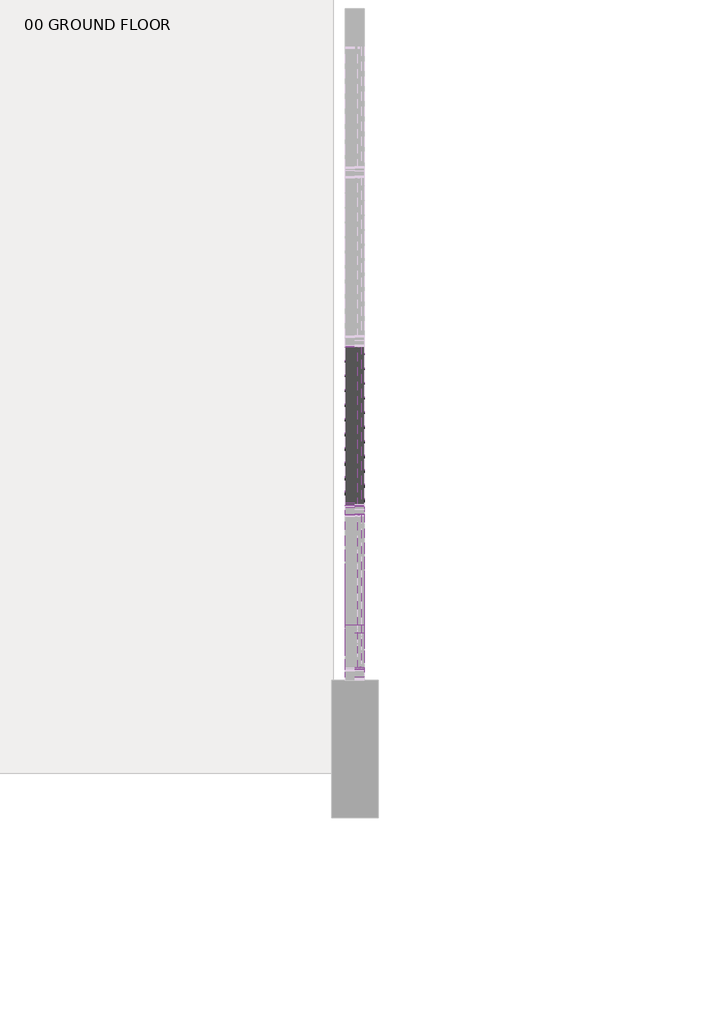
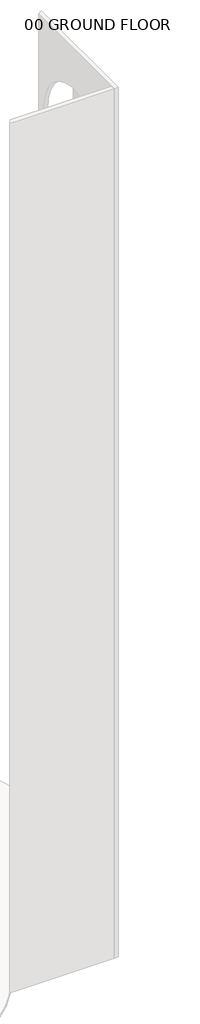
# One storey, part 16 of 33: 73 members, 52 plates.
"""IFC4 building model written with IfcOpenShell, lengths in millimetres."""

from ifc_helpers import new_model, si_unit, origin, place, context, project, spatial, transform, mapped, element, save
from components import member_c70f70ef, member_d1490fb0, member_2b49869a, member_5b1e3403, member_ba1b3d85, member_7098706b, member_828826df, member_e05e2410, member_cba936bb, system_panel_glazed_f009bf0e, system_panel_glazed_0919b3b7, system_panel_glazed_00e24ec9

model = new_model("IFC4")

# Units and contexts
model_context = context("Model", 3, world=origin())
ifc_project = project(units=[si_unit("LENGTHUNIT", "METRE", prefix="MILLI")], contexts=[model_context])

# Site, building, storey
site = spatial("IfcSite", under=ifc_project)
building = spatial("IfcBuilding", under=site)
storey = spatial("IfcBuildingStorey", under=building, Name="00 GROUND FLOOR", Elevation=0.0)

# Members
placement = place(None, origin())
member_shape = member_c70f70ef(model_context)
element("IfcMember", 1, ObjectType="Rectangular Mullion : 2.5\" x 5\" rectangular", at=placement, inside=storey, context=model_context, shape_type="MappedRepresentation", body=[
    mapped(member_shape, transform((44184.4050515, 1865.5392859, 46329.6), x_axis=(0.0, 0.0, 1.0), y_axis=(1.0, 0.0, 0.0), z_axis=(0.0, 1.0, 0.0))),
])
element("IfcMember", 2, ObjectType="Rectangular Mullion : 2.5\" x 5\" rectangular", at=placement, inside=storey, context=model_context, shape_type="MappedRepresentation", body=[
    mapped(member_shape, transform((44184.4050515, 1865.5392859, 47548.8), x_axis=(0.0, 0.0, 1.0), y_axis=(1.0, 0.0, 0.0), z_axis=(0.0, 1.0, 0.0))),
])
element("IfcMember", 3, ObjectType="Rectangular Mullion : 2.5\" x 5\" rectangular", at=placement, inside=storey, context=model_context, shape_type="MappedRepresentation", body=[
    mapped(member_shape, transform((44184.4050515, 1865.5392859, 48768.0), x_axis=(0.0, 0.0, 1.0), y_axis=(1.0, 0.0, 0.0), z_axis=(0.0, 1.0, 0.0))),
])
element("IfcMember", 4, ObjectType="Rectangular Mullion : 2.5\" x 5\" rectangular", at=placement, inside=storey, context=model_context, shape_type="MappedRepresentation", body=[
    mapped(member_shape, transform((44184.4050515, 1865.5392859, 49987.2), x_axis=(0.0, 0.0, 1.0), y_axis=(1.0, 0.0, 0.0), z_axis=(0.0, 1.0, 0.0))),
])
element("IfcMember", 5, ObjectType="Rectangular Mullion : 2.5\" x 5\" rectangular", at=placement, inside=storey, context=model_context, shape_type="MappedRepresentation", body=[
    mapped(member_shape, transform((44184.4050515, 1865.5392859, 51206.4), x_axis=(0.0, 0.0, 1.0), y_axis=(1.0, 0.0, 0.0), z_axis=(0.0, 1.0, 0.0))),
])
element("IfcMember", 6, ObjectType="Rectangular Mullion : 2.5\" x 5\" rectangular", at=placement, inside=storey, context=model_context, shape_type="MappedRepresentation", body=[
    mapped(member_shape, transform((44184.4050515, 1865.5392859, 52425.6), x_axis=(0.0, 0.0, 1.0), y_axis=(1.0, 0.0, 0.0), z_axis=(0.0, 1.0, 0.0))),
])
element("IfcMember", 7, ObjectType="Rectangular Mullion : 2.5\" x 5\" rectangular", at=placement, inside=storey, context=model_context, shape_type="MappedRepresentation", body=[
    mapped(member_shape, transform((44184.4050515, 1865.5392859, 53644.8), x_axis=(0.0, 0.0, 1.0), y_axis=(1.0, 0.0, 0.0), z_axis=(0.0, 1.0, 0.0))),
])
element("IfcMember", 8, ObjectType="Rectangular Mullion : 2.5\" x 5\" rectangular", at=placement, inside=storey, context=model_context, shape_type="MappedRepresentation", body=[
    mapped(member_shape, transform((44184.4050515, 1865.5392859, 54864.0), x_axis=(0.0, 0.0, 1.0), y_axis=(1.0, 0.0, 0.0), z_axis=(0.0, 1.0, 0.0))),
])
element("IfcMember", 9, ObjectType="Rectangular Mullion : 2.5\" x 5\" rectangular", at=placement, inside=storey, context=model_context, shape_type="MappedRepresentation", body=[
    mapped(member_shape, transform((44184.4050515, 1865.5392859, 56083.2), x_axis=(0.0, 0.0, 1.0), y_axis=(1.0, 0.0, 0.0), z_axis=(0.0, 1.0, 0.0))),
])
element("IfcMember", 10, ObjectType="Rectangular Mullion : 2.5\" x 5\" rectangular", at=placement, inside=storey, context=model_context, shape_type="MappedRepresentation", body=[
    mapped(member_shape, transform((44184.4050515, 1865.5392859, 57302.4), x_axis=(0.0, 0.0, 1.0), y_axis=(1.0, 0.0, 0.0), z_axis=(0.0, 1.0, 0.0))),
])
element("IfcMember", 11, ObjectType="Rectangular Mullion : 2.5\" x 5\" rectangular", at=placement, inside=storey, context=model_context, shape_type="MappedRepresentation", body=[
    mapped(member_shape, transform((44184.4050515, 1865.5392859, 58521.6), x_axis=(0.0, 0.0, 1.0), y_axis=(1.0, 0.0, 0.0), z_axis=(0.0, 1.0, 0.0))),
])
member_2_shape = member_d1490fb0(model_context)
element("IfcMember", 12, ObjectType="Rectangular Mullion : 2.5\" x 5\" rectangular", at=placement, inside=storey, context=model_context, shape_type="MappedRepresentation", body=[
    mapped(member_2_shape, transform((44184.4050515, 2997.6535716, 1219.2), x_axis=(0.0, 0.0, 1.0), y_axis=(1.0, 0.0, 0.0), z_axis=(0.0, 1.0, 0.0))),
])
element("IfcMember", 13, ObjectType="Rectangular Mullion : 2.5\" x 5\" rectangular", at=placement, inside=storey, context=model_context, shape_type="MappedRepresentation", body=[
    mapped(member_2_shape, transform((44184.4050515, 2997.6535716, 2438.4), x_axis=(0.0, 0.0, 1.0), y_axis=(1.0, 0.0, 0.0), z_axis=(0.0, 1.0, 0.0))),
])
element("IfcMember", 14, ObjectType="Rectangular Mullion : 2.5\" x 5\" rectangular", at=placement, inside=storey, context=model_context, shape_type="MappedRepresentation", body=[
    mapped(member_2_shape, transform((44184.4050515, 2997.6535716, 3657.6), x_axis=(0.0, 0.0, 1.0), y_axis=(1.0, 0.0, 0.0), z_axis=(0.0, 1.0, 0.0))),
])
element("IfcMember", 15, ObjectType="Rectangular Mullion : 2.5\" x 5\" rectangular", at=placement, inside=storey, context=model_context, shape_type="MappedRepresentation", body=[
    mapped(member_2_shape, transform((44184.4050515, 2997.6535716, 4876.8), x_axis=(0.0, 0.0, 1.0), y_axis=(1.0, 0.0, 0.0), z_axis=(0.0, 1.0, 0.0))),
])
element("IfcMember", 16, ObjectType="Rectangular Mullion : 2.5\" x 5\" rectangular", at=placement, inside=storey, context=model_context, shape_type="MappedRepresentation", body=[
    mapped(member_2_shape, transform((44184.4050515, 2997.6535716, 6096.0), x_axis=(0.0, 0.0, 1.0), y_axis=(1.0, 0.0, 0.0), z_axis=(0.0, 1.0, 0.0))),
])
element("IfcMember", 17, ObjectType="Rectangular Mullion : 2.5\" x 5\" rectangular", at=placement, inside=storey, context=model_context, shape_type="MappedRepresentation", body=[
    mapped(member_2_shape, transform((44184.4050515, 2997.6535716, 7315.2), x_axis=(0.0, 0.0, 1.0), y_axis=(1.0, 0.0, 0.0), z_axis=(0.0, 1.0, 0.0))),
])
element("IfcMember", 18, ObjectType="Rectangular Mullion : 2.5\" x 5\" rectangular", at=placement, inside=storey, context=model_context, shape_type="MappedRepresentation", body=[
    mapped(member_2_shape, transform((44184.4050515, 2997.6535716, 8534.4), x_axis=(0.0, 0.0, 1.0), y_axis=(1.0, 0.0, 0.0), z_axis=(0.0, 1.0, 0.0))),
])
element("IfcMember", 19, ObjectType="Rectangular Mullion : 2.5\" x 5\" rectangular", at=placement, inside=storey, context=model_context, shape_type="MappedRepresentation", body=[
    mapped(member_2_shape, transform((44184.4050515, 2997.6535716, 9753.6), x_axis=(0.0, 0.0, 1.0), y_axis=(1.0, 0.0, 0.0), z_axis=(0.0, 1.0, 0.0))),
])
element("IfcMember", 20, ObjectType="Rectangular Mullion : 2.5\" x 5\" rectangular", at=placement, inside=storey, context=model_context, shape_type="MappedRepresentation", body=[
    mapped(member_2_shape, transform((44184.4050515, 2997.6535716, 10972.8), x_axis=(0.0, 0.0, 1.0), y_axis=(1.0, 0.0, 0.0), z_axis=(0.0, 1.0, 0.0))),
])
element("IfcMember", 21, ObjectType="Rectangular Mullion : 2.5\" x 5\" rectangular", at=placement, inside=storey, context=model_context, shape_type="MappedRepresentation", body=[
    mapped(member_2_shape, transform((44184.4050515, 2997.6535716, 12192.0), x_axis=(0.0, 0.0, 1.0), y_axis=(1.0, 0.0, 0.0), z_axis=(0.0, 1.0, 0.0))),
])
element("IfcMember", 22, ObjectType="Rectangular Mullion : 2.5\" x 5\" rectangular", at=placement, inside=storey, context=model_context, shape_type="MappedRepresentation", body=[
    mapped(member_2_shape, transform((44184.4050515, 2997.6535716, 13411.2), x_axis=(0.0, 0.0, 1.0), y_axis=(1.0, 0.0, 0.0), z_axis=(0.0, 1.0, 0.0))),
])
element("IfcMember", 23, ObjectType="Rectangular Mullion : 2.5\" x 5\" rectangular", at=placement, inside=storey, context=model_context, shape_type="MappedRepresentation", body=[
    mapped(member_2_shape, transform((44184.4050515, 2997.6535716, 14630.4), x_axis=(0.0, 0.0, 1.0), y_axis=(1.0, 0.0, 0.0), z_axis=(0.0, 1.0, 0.0))),
])
element("IfcMember", 24, ObjectType="Rectangular Mullion : 2.5\" x 5\" rectangular", at=placement, inside=storey, context=model_context, shape_type="MappedRepresentation", body=[
    mapped(member_2_shape, transform((44184.4050515, 2997.6535716, 15849.6), x_axis=(0.0, 0.0, 1.0), y_axis=(1.0, 0.0, 0.0), z_axis=(0.0, 1.0, 0.0))),
])
element("IfcMember", 25, ObjectType="Rectangular Mullion : 2.5\" x 5\" rectangular", at=placement, inside=storey, context=model_context, shape_type="MappedRepresentation", body=[
    mapped(member_2_shape, transform((44184.4050515, 2997.6535716, 17068.8), x_axis=(0.0, 0.0, 1.0), y_axis=(1.0, 0.0, 0.0), z_axis=(0.0, 1.0, 0.0))),
])
element("IfcMember", 26, ObjectType="Rectangular Mullion : 2.5\" x 5\" rectangular", at=placement, inside=storey, context=model_context, shape_type="MappedRepresentation", body=[
    mapped(member_2_shape, transform((44184.4050515, 2997.6535716, 18288.0), x_axis=(0.0, 0.0, 1.0), y_axis=(1.0, 0.0, 0.0), z_axis=(0.0, 1.0, 0.0))),
])
element("IfcMember", 27, ObjectType="Rectangular Mullion : 2.5\" x 5\" rectangular", at=placement, inside=storey, context=model_context, shape_type="MappedRepresentation", body=[
    mapped(member_2_shape, transform((44184.4050515, 2997.6535716, 19507.2), x_axis=(0.0, 0.0, 1.0), y_axis=(1.0, 0.0, 0.0), z_axis=(0.0, 1.0, 0.0))),
])
element("IfcMember", 28, ObjectType="Rectangular Mullion : 2.5\" x 5\" rectangular", at=placement, inside=storey, context=model_context, shape_type="MappedRepresentation", body=[
    mapped(member_2_shape, transform((44184.4050515, 2997.6535716, 20726.4), x_axis=(0.0, 0.0, 1.0), y_axis=(1.0, 0.0, 0.0), z_axis=(0.0, 1.0, 0.0))),
])
element("IfcMember", 29, ObjectType="Rectangular Mullion : 2.5\" x 5\" rectangular", at=placement, inside=storey, context=model_context, shape_type="MappedRepresentation", body=[
    mapped(member_2_shape, transform((44184.4050515, 2997.6535716, 21945.6), x_axis=(0.0, 0.0, 1.0), y_axis=(1.0, 0.0, 0.0), z_axis=(0.0, 1.0, 0.0))),
])
element("IfcMember", 30, ObjectType="Rectangular Mullion : 2.5\" x 5\" rectangular", at=placement, inside=storey, context=model_context, shape_type="MappedRepresentation", body=[
    mapped(member_2_shape, transform((44184.4050515, 2997.6535716, 23164.8), x_axis=(0.0, 0.0, 1.0), y_axis=(1.0, 0.0, 0.0), z_axis=(0.0, 1.0, 0.0))),
])
element("IfcMember", 31, ObjectType="Rectangular Mullion : 2.5\" x 5\" rectangular", at=placement, inside=storey, context=model_context, shape_type="MappedRepresentation", body=[
    mapped(member_2_shape, transform((44184.4050515, 2997.6535716, 24384.0), x_axis=(0.0, 0.0, 1.0), y_axis=(1.0, 0.0, 0.0), z_axis=(0.0, 1.0, 0.0))),
])
element("IfcMember", 32, ObjectType="Rectangular Mullion : 2.5\" x 5\" rectangular", at=placement, inside=storey, context=model_context, shape_type="MappedRepresentation", body=[
    mapped(member_2_shape, transform((44184.4050515, 2997.6535716, 25603.2), x_axis=(0.0, 0.0, 1.0), y_axis=(1.0, 0.0, 0.0), z_axis=(0.0, 1.0, 0.0))),
])
element("IfcMember", 33, ObjectType="Rectangular Mullion : 2.5\" x 5\" rectangular", at=placement, inside=storey, context=model_context, shape_type="MappedRepresentation", body=[
    mapped(member_2_shape, transform((44184.4050515, 2997.6535716, 26822.4), x_axis=(0.0, 0.0, 1.0), y_axis=(1.0, 0.0, 0.0), z_axis=(0.0, 1.0, 0.0))),
])
element("IfcMember", 34, ObjectType="Rectangular Mullion : 2.5\" x 5\" rectangular", at=placement, inside=storey, context=model_context, shape_type="MappedRepresentation", body=[
    mapped(member_2_shape, transform((44184.4050515, 2997.6535716, 28041.6), x_axis=(0.0, 0.0, 1.0), y_axis=(1.0, 0.0, 0.0), z_axis=(0.0, 1.0, 0.0))),
])
element("IfcMember", 35, ObjectType="Rectangular Mullion : 2.5\" x 5\" rectangular", at=placement, inside=storey, context=model_context, shape_type="MappedRepresentation", body=[
    mapped(member_2_shape, transform((44184.4050515, 2997.6535716, 29260.8), x_axis=(0.0, 0.0, 1.0), y_axis=(1.0, 0.0, 0.0), z_axis=(0.0, 1.0, 0.0))),
])
element("IfcMember", 36, ObjectType="Rectangular Mullion : 2.5\" x 5\" rectangular", at=placement, inside=storey, context=model_context, shape_type="MappedRepresentation", body=[
    mapped(member_2_shape, transform((44184.4050515, 2997.6535716, 30480.0), x_axis=(0.0, 0.0, 1.0), y_axis=(1.0, 0.0, 0.0), z_axis=(0.0, 1.0, 0.0))),
])
element("IfcMember", 37, ObjectType="Rectangular Mullion : 2.5\" x 5\" rectangular", at=placement, inside=storey, context=model_context, shape_type="MappedRepresentation", body=[
    mapped(member_2_shape, transform((44184.4050515, 2997.6535716, 31699.2), x_axis=(0.0, 0.0, 1.0), y_axis=(1.0, 0.0, 0.0), z_axis=(0.0, 1.0, 0.0))),
])
element("IfcMember", 38, ObjectType="Rectangular Mullion : 2.5\" x 5\" rectangular", at=placement, inside=storey, context=model_context, shape_type="MappedRepresentation", body=[
    mapped(member_2_shape, transform((44184.4050515, 2997.6535716, 32918.4), x_axis=(0.0, 0.0, 1.0), y_axis=(1.0, 0.0, 0.0), z_axis=(0.0, 1.0, 0.0))),
])
element("IfcMember", 39, ObjectType="Rectangular Mullion : 2.5\" x 5\" rectangular", at=placement, inside=storey, context=model_context, shape_type="MappedRepresentation", body=[
    mapped(member_2_shape, transform((44184.4050515, 2997.6535716, 34137.6), x_axis=(0.0, 0.0, 1.0), y_axis=(1.0, 0.0, 0.0), z_axis=(0.0, 1.0, 0.0))),
])
element("IfcMember", 40, ObjectType="Rectangular Mullion : 2.5\" x 5\" rectangular", at=placement, inside=storey, context=model_context, shape_type="MappedRepresentation", body=[
    mapped(member_2_shape, transform((44184.4050515, 2997.6535716, 35356.8), x_axis=(0.0, 0.0, 1.0), y_axis=(1.0, 0.0, 0.0), z_axis=(0.0, 1.0, 0.0))),
])
element("IfcMember", 41, ObjectType="Rectangular Mullion : 2.5\" x 5\" rectangular", at=placement, inside=storey, context=model_context, shape_type="MappedRepresentation", body=[
    mapped(member_2_shape, transform((44184.4050515, 2997.6535716, 36576.0), x_axis=(0.0, 0.0, 1.0), y_axis=(1.0, 0.0, 0.0), z_axis=(0.0, 1.0, 0.0))),
])
element("IfcMember", 42, ObjectType="Rectangular Mullion : 2.5\" x 5\" rectangular", at=placement, inside=storey, context=model_context, shape_type="MappedRepresentation", body=[
    mapped(member_2_shape, transform((44184.4050515, 2997.6535716, 37795.2), x_axis=(0.0, 0.0, 1.0), y_axis=(1.0, 0.0, 0.0), z_axis=(0.0, 1.0, 0.0))),
])
element("IfcMember", 43, ObjectType="Rectangular Mullion : 2.5\" x 5\" rectangular", at=placement, inside=storey, context=model_context, shape_type="MappedRepresentation", body=[
    mapped(member_2_shape, transform((44184.4050515, 2997.6535716, 39014.4), x_axis=(0.0, 0.0, 1.0), y_axis=(1.0, 0.0, 0.0), z_axis=(0.0, 1.0, 0.0))),
])
element("IfcMember", 44, ObjectType="Rectangular Mullion : 2.5\" x 5\" rectangular", at=placement, inside=storey, context=model_context, shape_type="MappedRepresentation", body=[
    mapped(member_2_shape, transform((44184.4050515, 2997.6535716, 40233.6), x_axis=(0.0, 0.0, 1.0), y_axis=(1.0, 0.0, 0.0), z_axis=(0.0, 1.0, 0.0))),
])
element("IfcMember", 45, ObjectType="Rectangular Mullion : 2.5\" x 5\" rectangular", at=placement, inside=storey, context=model_context, shape_type="MappedRepresentation", body=[
    mapped(member_2_shape, transform((44184.4050515, 2997.6535716, 41452.8), x_axis=(0.0, 0.0, 1.0), y_axis=(1.0, 0.0, 0.0), z_axis=(0.0, 1.0, 0.0))),
])
element("IfcMember", 46, ObjectType="Rectangular Mullion : 2.5\" x 5\" rectangular", at=placement, inside=storey, context=model_context, shape_type="MappedRepresentation", body=[
    mapped(member_2_shape, transform((44184.4050515, 2997.6535716, 42672.0), x_axis=(0.0, 0.0, 1.0), y_axis=(1.0, 0.0, 0.0), z_axis=(0.0, 1.0, 0.0))),
])
element("IfcMember", 47, ObjectType="Rectangular Mullion : 2.5\" x 5\" rectangular", at=placement, inside=storey, context=model_context, shape_type="MappedRepresentation", body=[
    mapped(member_2_shape, transform((44184.4050515, 2997.6535716, 43891.2), x_axis=(0.0, 0.0, 1.0), y_axis=(1.0, 0.0, 0.0), z_axis=(0.0, 1.0, 0.0))),
])
element("IfcMember", 48, ObjectType="Rectangular Mullion : 2.5\" x 5\" rectangular", at=placement, inside=storey, context=model_context, shape_type="MappedRepresentation", body=[
    mapped(member_2_shape, transform((44184.4050515, 2997.6535716, 45110.4), x_axis=(0.0, 0.0, 1.0), y_axis=(1.0, 0.0, 0.0), z_axis=(0.0, 1.0, 0.0))),
])
element("IfcMember", 49, ObjectType="Rectangular Mullion : 2.5\" x 5\" rectangular", at=placement, inside=storey, context=model_context, shape_type="MappedRepresentation", body=[
    mapped(member_2_shape, transform((44184.4050515, 2997.6535716, 46329.6), x_axis=(0.0, 0.0, 1.0), y_axis=(1.0, 0.0, 0.0), z_axis=(0.0, 1.0, 0.0))),
])
element("IfcMember", 50, ObjectType="Rectangular Mullion : 2.5\" x 5\" rectangular", at=placement, inside=storey, context=model_context, shape_type="MappedRepresentation", body=[
    mapped(member_2_shape, transform((44184.4050515, 2997.6535716, 47548.8), x_axis=(0.0, 0.0, 1.0), y_axis=(1.0, 0.0, 0.0), z_axis=(0.0, 1.0, 0.0))),
])
element("IfcMember", 51, ObjectType="Rectangular Mullion : 2.5\" x 5\" rectangular", at=placement, inside=storey, context=model_context, shape_type="MappedRepresentation", body=[
    mapped(member_2_shape, transform((44184.4050515, 2997.6535716, 48768.0), x_axis=(0.0, 0.0, 1.0), y_axis=(1.0, 0.0, 0.0), z_axis=(0.0, 1.0, 0.0))),
])
element("IfcMember", 52, ObjectType="Rectangular Mullion : 2.5\" x 5\" rectangular", at=placement, inside=storey, context=model_context, shape_type="MappedRepresentation", body=[
    mapped(member_2_shape, transform((44184.4050515, 2997.6535716, 49987.2), x_axis=(0.0, 0.0, 1.0), y_axis=(1.0, 0.0, 0.0), z_axis=(0.0, 1.0, 0.0))),
])
element("IfcMember", 53, ObjectType="Rectangular Mullion : 2.5\" x 5\" rectangular", at=placement, inside=storey, context=model_context, shape_type="MappedRepresentation", body=[
    mapped(member_2_shape, transform((44184.4050515, 2997.6535716, 51206.4), x_axis=(0.0, 0.0, 1.0), y_axis=(1.0, 0.0, 0.0), z_axis=(0.0, 1.0, 0.0))),
])
element("IfcMember", 54, ObjectType="Rectangular Mullion : 2.5\" x 5\" rectangular", at=placement, inside=storey, context=model_context, shape_type="MappedRepresentation", body=[
    mapped(member_2_shape, transform((44184.4050515, 2997.6535716, 52425.6), x_axis=(0.0, 0.0, 1.0), y_axis=(1.0, 0.0, 0.0), z_axis=(0.0, 1.0, 0.0))),
])
element("IfcMember", 55, ObjectType="Rectangular Mullion : 2.5\" x 5\" rectangular", at=placement, inside=storey, context=model_context, shape_type="MappedRepresentation", body=[
    mapped(member_2_shape, transform((44184.4050515, 2997.6535716, 53644.8), x_axis=(0.0, 0.0, 1.0), y_axis=(1.0, 0.0, 0.0), z_axis=(0.0, 1.0, 0.0))),
])
element("IfcMember", 56, ObjectType="Rectangular Mullion : 2.5\" x 5\" rectangular", at=placement, inside=storey, context=model_context, shape_type="MappedRepresentation", body=[
    mapped(member_2_shape, transform((44184.4050515, 2997.6535716, 54864.0), x_axis=(0.0, 0.0, 1.0), y_axis=(1.0, 0.0, 0.0), z_axis=(0.0, 1.0, 0.0))),
])
element("IfcMember", 57, ObjectType="Rectangular Mullion : 2.5\" x 5\" rectangular", at=placement, inside=storey, context=model_context, shape_type="MappedRepresentation", body=[
    mapped(member_2_shape, transform((44184.4050515, 2997.6535716, 56083.2), x_axis=(0.0, 0.0, 1.0), y_axis=(1.0, 0.0, 0.0), z_axis=(0.0, 1.0, 0.0))),
])
element("IfcMember", 58, ObjectType="Rectangular Mullion : 2.5\" x 5\" rectangular", at=placement, inside=storey, context=model_context, shape_type="MappedRepresentation", body=[
    mapped(member_2_shape, transform((44184.4050515, 2997.6535716, 57302.4), x_axis=(0.0, 0.0, 1.0), y_axis=(1.0, 0.0, 0.0), z_axis=(0.0, 1.0, 0.0))),
])
element("IfcMember", 59, ObjectType="Rectangular Mullion : 2.5\" x 5\" rectangular", at=placement, inside=storey, context=model_context, shape_type="MappedRepresentation", body=[
    mapped(member_2_shape, transform((44184.4050515, 2997.6535716, 58521.6), x_axis=(0.0, 0.0, 1.0), y_axis=(1.0, 0.0, 0.0), z_axis=(0.0, 1.0, 0.0))),
])
element("IfcMember", 60, ObjectType="Rectangular Mullion : 2.5\" x 5\" rectangular", at=placement, inside=storey, context=model_context, shape_type="MappedRepresentation", body=[
    mapped(member_2_shape, transform((44184.4050515, 2997.6535716, 59740.8), x_axis=(0.0, 0.0, 1.0), y_axis=(1.0, 0.0, 0.0), z_axis=(0.0, 1.0, 0.0))),
])
member_3_shape = member_2b49869a(model_context)
element("IfcMember", 61, ObjectType="Rectangular Mullion : 2.5\" x 5\" rectangular", at=placement, inside=storey, context=model_context, shape_type="MappedRepresentation", body=[
    mapped(member_3_shape, transform((44184.4050515, 1897.2892859, 52425.6), x_axis=(0.0, 1.0, 0.0), y_axis=(1.0, 0.0, 0.0), z_axis=(0.0, 0.0, -1.0))),
])
element("IfcMember", 62, ObjectType="Rectangular Mullion : 2.5\" x 5\" rectangular", at=placement, inside=storey, context=model_context, shape_type="MappedRepresentation", body=[
    mapped(member_3_shape, transform((44184.4050515, 1897.2892859, 53644.8), x_axis=(0.0, 1.0, 0.0), y_axis=(1.0, 0.0, 0.0), z_axis=(0.0, 0.0, -1.0))),
])
element("IfcMember", 63, ObjectType="Rectangular Mullion : 2.5\" x 5\" rectangular", at=placement, inside=storey, context=model_context, shape_type="MappedRepresentation", body=[
    mapped(member_3_shape, transform((44184.4050515, 1897.2892859, 54864.0), x_axis=(0.0, 1.0, 0.0), y_axis=(1.0, 0.0, 0.0), z_axis=(0.0, 0.0, -1.0))),
])
element("IfcMember", 64, ObjectType="Rectangular Mullion : 2.5\" x 5\" rectangular", at=placement, inside=storey, context=model_context, shape_type="MappedRepresentation", body=[
    mapped(member_3_shape, transform((44184.4050515, 1897.2892859, 56083.2), x_axis=(0.0, 1.0, 0.0), y_axis=(1.0, 0.0, 0.0), z_axis=(0.0, 0.0, -1.0))),
])
element("IfcMember", 65, ObjectType="Rectangular Mullion : 2.5\" x 5\" rectangular", at=placement, inside=storey, context=model_context, shape_type="MappedRepresentation", body=[
    mapped(member_3_shape, transform((44184.4050515, 1897.2892859, 57302.4), x_axis=(0.0, 1.0, 0.0), y_axis=(1.0, 0.0, 0.0), z_axis=(0.0, 0.0, -1.0))),
])
element("IfcMember", 66, ObjectType="Rectangular Mullion : 2.5\" x 5\" rectangular", at=placement, inside=storey, context=model_context, shape_type="MappedRepresentation", body=[
    mapped(member_3_shape, transform((44184.4050515, 1897.2892859, 58521.6), x_axis=(0.0, 1.0, 0.0), y_axis=(1.0, 0.0, 0.0), z_axis=(0.0, 0.0, -1.0))),
])
element("IfcMember", 67, ObjectType="Rectangular Mullion : 2.5\" x 5\" rectangular", at=placement, inside=storey, context=model_context, shape_type="MappedRepresentation", body=[
    mapped(member_3_shape, transform((44184.4050515, 1897.2892859, 59740.8), x_axis=(0.0, 1.0, 0.0), y_axis=(1.0, 0.0, 0.0), z_axis=(0.0, 0.0, -1.0))),
])
member_4_shape = member_5b1e3403(model_context)
element("IfcMember", 68, ObjectType="Rectangular Mullion : 2.5\" x 5\" rectangular", at=placement, inside=storey, context=model_context, shape_type="MappedRepresentation", body=[
    mapped(member_4_shape, transform((44184.4050515, 1897.2892859, 62209.1023307), x_axis=(0.0, -0.7142857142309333, 0.6998542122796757), y_axis=(1.0, 0.0, 0.0), z_axis=(0.0, 0.6998542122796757, 0.7142857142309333))),
])
member_5_shape = member_ba1b3d85(model_context)
element("IfcMember", 69, ObjectType="Rectangular Mullion : 2.5\" x 5\" rectangular", at=placement, inside=storey, context=model_context, shape_type="MappedRepresentation", body=[
    mapped(member_5_shape, transform((44184.4050515, 1897.2892859, 60960.0), x_axis=(0.0, 1.0, 0.0), y_axis=(1.0, 0.0, 0.0), z_axis=(0.0, 0.0, -1.0))),
])
member_6_shape = member_7098706b(model_context)
element("IfcMember", 70, ObjectType="Rectangular Mullion : 2.5\" x 5\" rectangular", at=placement, inside=storey, context=model_context, shape_type="MappedRepresentation", body=[
    mapped(member_6_shape, transform((44184.4050515, 1069.975, 60960.0), x_axis=(0.0, -0.9230769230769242, 0.384615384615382), y_axis=(1.0, 0.0, 0.0), z_axis=(0.0, 0.384615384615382, 0.9230769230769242))),
])
member_7_shape = member_828826df(model_context)
element("IfcMember", 71, ObjectType="Rectangular Mullion : 2.5\" x 5\" rectangular", at=placement, inside=storey, context=model_context, shape_type="MappedRepresentation", body=[
    mapped(member_7_shape, transform((44184.4050515, 1868.2975528, 62179.2), x_axis=(0.0, -0.7216024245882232, 0.6923076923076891), y_axis=(1.0, 0.0, 0.0), z_axis=(0.0, 0.6923076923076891, 0.7216024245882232))),
])
member_8_shape = member_e05e2410(model_context)
element("IfcMember", 72, ObjectType="Rectangular Mullion : 2.5\" x 5\" rectangular", at=placement, inside=storey, context=model_context, shape_type="MappedRepresentation", body=[
    mapped(member_8_shape, transform((44184.4050515, 1865.5392859, 59740.8), x_axis=(0.0, 0.0, 1.0), y_axis=(1.0, 0.0, 0.0), z_axis=(0.0, 1.0, 0.0))),
])
member_9_shape = member_cba936bb(model_context)
element("IfcMember", 73, ObjectType="Rectangular Mullion : 2.5\" x 5\" rectangular", at=placement, inside=storey, context=model_context, shape_type="MappedRepresentation", body=[
    mapped(member_9_shape, transform((44184.4050515, 1865.5392859, 60960.0), x_axis=(0.0, 0.0, 1.0), y_axis=(1.0, 0.0, 0.0), z_axis=(0.0, 1.0, 0.0))),
])

# Plates
system_panel_glazed_shape = system_panel_glazed_f009bf0e(model_context)
element("IfcPlate", 74, ObjectType="System Panel : Glazed", at=placement, inside=storey, context=model_context, shape_type="MappedRepresentation", body=[
    mapped(system_panel_glazed_shape, transform((44184.4050515, 2463.3464287, 63.5), x_axis=(0.0, 1.0, 0.0), y_axis=(-1.0, 0.0, 0.0), z_axis=(0.0, 0.0, 1.0))),
])
system_panel_glazed_2_shape = system_panel_glazed_0919b3b7(model_context)
element("IfcPlate", 75, ObjectType="System Panel : Glazed", at=placement, inside=storey, context=model_context, shape_type="MappedRepresentation", body=[
    mapped(system_panel_glazed_2_shape, transform((44184.4050515, 2463.3464287, 1250.95), x_axis=(0.0, 1.0, 0.0), y_axis=(-1.0, 0.0, 0.0), z_axis=(0.0, 0.0, 1.0))),
])
element("IfcPlate", 76, ObjectType="System Panel : Glazed", at=placement, inside=storey, context=model_context, shape_type="MappedRepresentation", body=[
    mapped(system_panel_glazed_2_shape, transform((44184.4050515, 2463.3464287, 2470.15), x_axis=(0.0, 1.0, 0.0), y_axis=(-1.0, 0.0, 0.0), z_axis=(0.0, 0.0, 1.0))),
])
element("IfcPlate", 77, ObjectType="System Panel : Glazed", at=placement, inside=storey, context=model_context, shape_type="MappedRepresentation", body=[
    mapped(system_panel_glazed_2_shape, transform((44184.4050515, 2463.3464287, 3689.35), x_axis=(0.0, 1.0, 0.0), y_axis=(-1.0, 0.0, 0.0), z_axis=(0.0, 0.0, 1.0))),
])
element("IfcPlate", 78, ObjectType="System Panel : Glazed", at=placement, inside=storey, context=model_context, shape_type="MappedRepresentation", body=[
    mapped(system_panel_glazed_2_shape, transform((44184.4050515, 2463.3464287, 4908.55), x_axis=(0.0, 1.0, 0.0), y_axis=(-1.0, 0.0, 0.0), z_axis=(0.0, 0.0, 1.0))),
])
element("IfcPlate", 79, ObjectType="System Panel : Glazed", at=placement, inside=storey, context=model_context, shape_type="MappedRepresentation", body=[
    mapped(system_panel_glazed_2_shape, transform((44184.4050515, 2463.3464287, 6127.75), x_axis=(0.0, 1.0, 0.0), y_axis=(-1.0, 0.0, 0.0), z_axis=(0.0, 0.0, 1.0))),
])
element("IfcPlate", 80, ObjectType="System Panel : Glazed", at=placement, inside=storey, context=model_context, shape_type="MappedRepresentation", body=[
    mapped(system_panel_glazed_2_shape, transform((44184.4050515, 2463.3464287, 7346.95), x_axis=(0.0, 1.0, 0.0), y_axis=(-1.0, 0.0, 0.0), z_axis=(0.0, 0.0, 1.0))),
])
element("IfcPlate", 81, ObjectType="System Panel : Glazed", at=placement, inside=storey, context=model_context, shape_type="MappedRepresentation", body=[
    mapped(system_panel_glazed_2_shape, transform((44184.4050515, 2463.3464287, 8566.15), x_axis=(0.0, 1.0, 0.0), y_axis=(-1.0, 0.0, 0.0), z_axis=(0.0, 0.0, 1.0))),
])
element("IfcPlate", 82, ObjectType="System Panel : Glazed", at=placement, inside=storey, context=model_context, shape_type="MappedRepresentation", body=[
    mapped(system_panel_glazed_2_shape, transform((44184.4050515, 2463.3464287, 9785.35), x_axis=(0.0, 1.0, 0.0), y_axis=(-1.0, 0.0, 0.0), z_axis=(0.0, 0.0, 1.0))),
])
element("IfcPlate", 83, ObjectType="System Panel : Glazed", at=placement, inside=storey, context=model_context, shape_type="MappedRepresentation", body=[
    mapped(system_panel_glazed_2_shape, transform((44184.4050515, 2463.3464287, 11004.55), x_axis=(0.0, 1.0, 0.0), y_axis=(-1.0, 0.0, 0.0), z_axis=(0.0, 0.0, 1.0))),
])
element("IfcPlate", 84, ObjectType="System Panel : Glazed", at=placement, inside=storey, context=model_context, shape_type="MappedRepresentation", body=[
    mapped(system_panel_glazed_2_shape, transform((44184.4050515, 2463.3464287, 12223.75), x_axis=(0.0, 1.0, 0.0), y_axis=(-1.0, 0.0, 0.0), z_axis=(0.0, 0.0, 1.0))),
])
element("IfcPlate", 85, ObjectType="System Panel : Glazed", at=placement, inside=storey, context=model_context, shape_type="MappedRepresentation", body=[
    mapped(system_panel_glazed_2_shape, transform((44184.4050515, 2463.3464287, 13442.95), x_axis=(0.0, 1.0, 0.0), y_axis=(-1.0, 0.0, 0.0), z_axis=(0.0, 0.0, 1.0))),
])
element("IfcPlate", 86, ObjectType="System Panel : Glazed", at=placement, inside=storey, context=model_context, shape_type="MappedRepresentation", body=[
    mapped(system_panel_glazed_2_shape, transform((44184.4050515, 2463.3464287, 14662.15), x_axis=(0.0, 1.0, 0.0), y_axis=(-1.0, 0.0, 0.0), z_axis=(0.0, 0.0, 1.0))),
])
element("IfcPlate", 87, ObjectType="System Panel : Glazed", at=placement, inside=storey, context=model_context, shape_type="MappedRepresentation", body=[
    mapped(system_panel_glazed_2_shape, transform((44184.4050515, 2463.3464287, 15881.35), x_axis=(0.0, 1.0, 0.0), y_axis=(-1.0, 0.0, 0.0), z_axis=(0.0, 0.0, 1.0))),
])
element("IfcPlate", 88, ObjectType="System Panel : Glazed", at=placement, inside=storey, context=model_context, shape_type="MappedRepresentation", body=[
    mapped(system_panel_glazed_2_shape, transform((44184.4050515, 2463.3464287, 17100.55), x_axis=(0.0, 1.0, 0.0), y_axis=(-1.0, 0.0, 0.0), z_axis=(0.0, 0.0, 1.0))),
])
element("IfcPlate", 89, ObjectType="System Panel : Glazed", at=placement, inside=storey, context=model_context, shape_type="MappedRepresentation", body=[
    mapped(system_panel_glazed_2_shape, transform((44184.4050515, 2463.3464287, 18319.75), x_axis=(0.0, 1.0, 0.0), y_axis=(-1.0, 0.0, 0.0), z_axis=(0.0, 0.0, 1.0))),
])
element("IfcPlate", 90, ObjectType="System Panel : Glazed", at=placement, inside=storey, context=model_context, shape_type="MappedRepresentation", body=[
    mapped(system_panel_glazed_2_shape, transform((44184.4050515, 2463.3464287, 19538.95), x_axis=(0.0, 1.0, 0.0), y_axis=(-1.0, 0.0, 0.0), z_axis=(0.0, 0.0, 1.0))),
])
element("IfcPlate", 91, ObjectType="System Panel : Glazed", at=placement, inside=storey, context=model_context, shape_type="MappedRepresentation", body=[
    mapped(system_panel_glazed_2_shape, transform((44184.4050515, 2463.3464287, 20758.15), x_axis=(0.0, 1.0, 0.0), y_axis=(-1.0, 0.0, 0.0), z_axis=(0.0, 0.0, 1.0))),
])
element("IfcPlate", 92, ObjectType="System Panel : Glazed", at=placement, inside=storey, context=model_context, shape_type="MappedRepresentation", body=[
    mapped(system_panel_glazed_2_shape, transform((44184.4050515, 2463.3464287, 21977.35), x_axis=(0.0, 1.0, 0.0), y_axis=(-1.0, 0.0, 0.0), z_axis=(0.0, 0.0, 1.0))),
])
element("IfcPlate", 93, ObjectType="System Panel : Glazed", at=placement, inside=storey, context=model_context, shape_type="MappedRepresentation", body=[
    mapped(system_panel_glazed_2_shape, transform((44184.4050515, 2463.3464287, 23196.55), x_axis=(0.0, 1.0, 0.0), y_axis=(-1.0, 0.0, 0.0), z_axis=(0.0, 0.0, 1.0))),
])
element("IfcPlate", 94, ObjectType="System Panel : Glazed", at=placement, inside=storey, context=model_context, shape_type="MappedRepresentation", body=[
    mapped(system_panel_glazed_2_shape, transform((44184.4050515, 2463.3464287, 24415.75), x_axis=(0.0, 1.0, 0.0), y_axis=(-1.0, 0.0, 0.0), z_axis=(0.0, 0.0, 1.0))),
])
element("IfcPlate", 95, ObjectType="System Panel : Glazed", at=placement, inside=storey, context=model_context, shape_type="MappedRepresentation", body=[
    mapped(system_panel_glazed_2_shape, transform((44184.4050515, 2463.3464287, 25634.95), x_axis=(0.0, 1.0, 0.0), y_axis=(-1.0, 0.0, 0.0), z_axis=(0.0, 0.0, 1.0))),
])
element("IfcPlate", 96, ObjectType="System Panel : Glazed", at=placement, inside=storey, context=model_context, shape_type="MappedRepresentation", body=[
    mapped(system_panel_glazed_2_shape, transform((44184.4050515, 2463.3464287, 26854.15), x_axis=(0.0, 1.0, 0.0), y_axis=(-1.0, 0.0, 0.0), z_axis=(0.0, 0.0, 1.0))),
])
element("IfcPlate", 97, ObjectType="System Panel : Glazed", at=placement, inside=storey, context=model_context, shape_type="MappedRepresentation", body=[
    mapped(system_panel_glazed_2_shape, transform((44184.4050515, 2463.3464287, 28073.35), x_axis=(0.0, 1.0, 0.0), y_axis=(-1.0, 0.0, 0.0), z_axis=(0.0, 0.0, 1.0))),
])
element("IfcPlate", 98, ObjectType="System Panel : Glazed", at=placement, inside=storey, context=model_context, shape_type="MappedRepresentation", body=[
    mapped(system_panel_glazed_2_shape, transform((44184.4050515, 2463.3464287, 29292.55), x_axis=(0.0, 1.0, 0.0), y_axis=(-1.0, 0.0, 0.0), z_axis=(0.0, 0.0, 1.0))),
])
element("IfcPlate", 99, ObjectType="System Panel : Glazed", at=placement, inside=storey, context=model_context, shape_type="MappedRepresentation", body=[
    mapped(system_panel_glazed_2_shape, transform((44184.4050515, 2463.3464287, 30511.75), x_axis=(0.0, 1.0, 0.0), y_axis=(-1.0, 0.0, 0.0), z_axis=(0.0, 0.0, 1.0))),
])
element("IfcPlate", 100, ObjectType="System Panel : Glazed", at=placement, inside=storey, context=model_context, shape_type="MappedRepresentation", body=[
    mapped(system_panel_glazed_2_shape, transform((44184.4050515, 2463.3464287, 31730.95), x_axis=(0.0, 1.0, 0.0), y_axis=(-1.0, 0.0, 0.0), z_axis=(0.0, 0.0, 1.0))),
])
element("IfcPlate", 101, ObjectType="System Panel : Glazed", at=placement, inside=storey, context=model_context, shape_type="MappedRepresentation", body=[
    mapped(system_panel_glazed_2_shape, transform((44184.4050515, 2463.3464287, 32950.15), x_axis=(0.0, 1.0, 0.0), y_axis=(-1.0, 0.0, 0.0), z_axis=(0.0, 0.0, 1.0))),
])
element("IfcPlate", 102, ObjectType="System Panel : Glazed", at=placement, inside=storey, context=model_context, shape_type="MappedRepresentation", body=[
    mapped(system_panel_glazed_2_shape, transform((44184.4050515, 2463.3464287, 34169.35), x_axis=(0.0, 1.0, 0.0), y_axis=(-1.0, 0.0, 0.0), z_axis=(0.0, 0.0, 1.0))),
])
element("IfcPlate", 103, ObjectType="System Panel : Glazed", at=placement, inside=storey, context=model_context, shape_type="MappedRepresentation", body=[
    mapped(system_panel_glazed_2_shape, transform((44184.4050515, 2463.3464287, 35388.55), x_axis=(0.0, 1.0, 0.0), y_axis=(-1.0, 0.0, 0.0), z_axis=(0.0, 0.0, 1.0))),
])
element("IfcPlate", 104, ObjectType="System Panel : Glazed", at=placement, inside=storey, context=model_context, shape_type="MappedRepresentation", body=[
    mapped(system_panel_glazed_2_shape, transform((44184.4050515, 2463.3464287, 36607.75), x_axis=(0.0, 1.0, 0.0), y_axis=(-1.0, 0.0, 0.0), z_axis=(0.0, 0.0, 1.0))),
])
element("IfcPlate", 105, ObjectType="System Panel : Glazed", at=placement, inside=storey, context=model_context, shape_type="MappedRepresentation", body=[
    mapped(system_panel_glazed_2_shape, transform((44184.4050515, 2463.3464287, 37826.95), x_axis=(0.0, 1.0, 0.0), y_axis=(-1.0, 0.0, 0.0), z_axis=(0.0, 0.0, 1.0))),
])
element("IfcPlate", 106, ObjectType="System Panel : Glazed", at=placement, inside=storey, context=model_context, shape_type="MappedRepresentation", body=[
    mapped(system_panel_glazed_2_shape, transform((44184.4050515, 2463.3464287, 39046.15), x_axis=(0.0, 1.0, 0.0), y_axis=(-1.0, 0.0, 0.0), z_axis=(0.0, 0.0, 1.0))),
])
element("IfcPlate", 107, ObjectType="System Panel : Glazed", at=placement, inside=storey, context=model_context, shape_type="MappedRepresentation", body=[
    mapped(system_panel_glazed_2_shape, transform((44184.4050515, 2463.3464287, 40265.35), x_axis=(0.0, 1.0, 0.0), y_axis=(-1.0, 0.0, 0.0), z_axis=(0.0, 0.0, 1.0))),
])
element("IfcPlate", 108, ObjectType="System Panel : Glazed", at=placement, inside=storey, context=model_context, shape_type="MappedRepresentation", body=[
    mapped(system_panel_glazed_2_shape, transform((44184.4050515, 2463.3464287, 41484.55), x_axis=(0.0, 1.0, 0.0), y_axis=(-1.0, 0.0, 0.0), z_axis=(0.0, 0.0, 1.0))),
])
element("IfcPlate", 109, ObjectType="System Panel : Glazed", at=placement, inside=storey, context=model_context, shape_type="MappedRepresentation", body=[
    mapped(system_panel_glazed_2_shape, transform((44184.4050515, 2463.3464287, 42703.75), x_axis=(0.0, 1.0, 0.0), y_axis=(-1.0, 0.0, 0.0), z_axis=(0.0, 0.0, 1.0))),
])
element("IfcPlate", 110, ObjectType="System Panel : Glazed", at=placement, inside=storey, context=model_context, shape_type="MappedRepresentation", body=[
    mapped(system_panel_glazed_2_shape, transform((44184.4050515, 2463.3464287, 43922.95), x_axis=(0.0, 1.0, 0.0), y_axis=(-1.0, 0.0, 0.0), z_axis=(0.0, 0.0, 1.0))),
])
element("IfcPlate", 111, ObjectType="System Panel : Glazed", at=placement, inside=storey, context=model_context, shape_type="MappedRepresentation", body=[
    mapped(system_panel_glazed_2_shape, transform((44184.4050515, 2463.3464287, 45142.15), x_axis=(0.0, 1.0, 0.0), y_axis=(-1.0, 0.0, 0.0), z_axis=(0.0, 0.0, 1.0))),
])
element("IfcPlate", 112, ObjectType="System Panel : Glazed", at=placement, inside=storey, context=model_context, shape_type="MappedRepresentation", body=[
    mapped(system_panel_glazed_2_shape, transform((44184.4050515, 2463.3464287, 46361.35), x_axis=(0.0, 1.0, 0.0), y_axis=(-1.0, 0.0, 0.0), z_axis=(0.0, 0.0, 1.0))),
])
element("IfcPlate", 113, ObjectType="System Panel : Glazed", at=placement, inside=storey, context=model_context, shape_type="MappedRepresentation", body=[
    mapped(system_panel_glazed_2_shape, transform((44184.4050515, 2463.3464287, 47580.55), x_axis=(0.0, 1.0, 0.0), y_axis=(-1.0, 0.0, 0.0), z_axis=(0.0, 0.0, 1.0))),
])
element("IfcPlate", 114, ObjectType="System Panel : Glazed", at=placement, inside=storey, context=model_context, shape_type="MappedRepresentation", body=[
    mapped(system_panel_glazed_2_shape, transform((44184.4050515, 2463.3464287, 48799.75), x_axis=(0.0, 1.0, 0.0), y_axis=(-1.0, 0.0, 0.0), z_axis=(0.0, 0.0, 1.0))),
])
element("IfcPlate", 115, ObjectType="System Panel : Glazed", at=placement, inside=storey, context=model_context, shape_type="MappedRepresentation", body=[
    mapped(system_panel_glazed_2_shape, transform((44184.4050515, 2463.3464287, 50018.95), x_axis=(0.0, 1.0, 0.0), y_axis=(-1.0, 0.0, 0.0), z_axis=(0.0, 0.0, 1.0))),
])
element("IfcPlate", 116, ObjectType="System Panel : Glazed", at=placement, inside=storey, context=model_context, shape_type="MappedRepresentation", body=[
    mapped(system_panel_glazed_2_shape, transform((44184.4050515, 2463.3464287, 51238.15), x_axis=(0.0, 1.0, 0.0), y_axis=(-1.0, 0.0, 0.0), z_axis=(0.0, 0.0, 1.0))),
])
element("IfcPlate", 117, ObjectType="System Panel : Glazed", at=placement, inside=storey, context=model_context, shape_type="MappedRepresentation", body=[
    mapped(system_panel_glazed_2_shape, transform((44184.4050515, 2463.3464287, 52457.35), x_axis=(0.0, 1.0, 0.0), y_axis=(-1.0, 0.0, 0.0), z_axis=(0.0, 0.0, 1.0))),
])
element("IfcPlate", 118, ObjectType="System Panel : Glazed", at=placement, inside=storey, context=model_context, shape_type="MappedRepresentation", body=[
    mapped(system_panel_glazed_2_shape, transform((44184.4050515, 2463.3464287, 53676.55), x_axis=(0.0, 1.0, 0.0), y_axis=(-1.0, 0.0, 0.0), z_axis=(0.0, 0.0, 1.0))),
])
element("IfcPlate", 119, ObjectType="System Panel : Glazed", at=placement, inside=storey, context=model_context, shape_type="MappedRepresentation", body=[
    mapped(system_panel_glazed_2_shape, transform((44184.4050515, 2463.3464287, 54895.75), x_axis=(0.0, 1.0, 0.0), y_axis=(-1.0, 0.0, 0.0), z_axis=(0.0, 0.0, 1.0))),
])
element("IfcPlate", 120, ObjectType="System Panel : Glazed", at=placement, inside=storey, context=model_context, shape_type="MappedRepresentation", body=[
    mapped(system_panel_glazed_2_shape, transform((44184.4050515, 2463.3464287, 56114.95), x_axis=(0.0, 1.0, 0.0), y_axis=(-1.0, 0.0, 0.0), z_axis=(0.0, 0.0, 1.0))),
])
element("IfcPlate", 121, ObjectType="System Panel : Glazed", at=placement, inside=storey, context=model_context, shape_type="MappedRepresentation", body=[
    mapped(system_panel_glazed_2_shape, transform((44184.4050515, 2463.3464287, 57334.15), x_axis=(0.0, 1.0, 0.0), y_axis=(-1.0, 0.0, 0.0), z_axis=(0.0, 0.0, 1.0))),
])
element("IfcPlate", 122, ObjectType="System Panel : Glazed", at=placement, inside=storey, context=model_context, shape_type="MappedRepresentation", body=[
    mapped(system_panel_glazed_2_shape, transform((44184.4050515, 2463.3464287, 58553.35), x_axis=(0.0, 1.0, 0.0), y_axis=(-1.0, 0.0, 0.0), z_axis=(0.0, 0.0, 1.0))),
])
element("IfcPlate", 123, ObjectType="System Panel : Glazed", at=placement, inside=storey, context=model_context, shape_type="MappedRepresentation", body=[
    mapped(system_panel_glazed_2_shape, transform((44184.4050515, 2463.3464287, 59772.55), x_axis=(0.0, 1.0, 0.0), y_axis=(-1.0, 0.0, 0.0), z_axis=(0.0, 0.0, 1.0))),
])
element("IfcPlate", 124, ObjectType="System Panel : Glazed", at=placement, inside=storey, context=model_context, shape_type="MappedRepresentation", body=[
    mapped(system_panel_glazed_2_shape, transform((44184.4050515, 2463.3464287, 60991.75), x_axis=(0.0, 1.0, 0.0), y_axis=(-1.0, 0.0, 0.0), z_axis=(0.0, 0.0, 1.0))),
])
system_panel_glazed_3_shape = system_panel_glazed_00e24ec9(model_context)
element("IfcPlate", 125, ObjectType="System Panel : Glazed", at=placement, inside=storey, context=model_context, shape_type="MappedRepresentation", body=[
    mapped(system_panel_glazed_3_shape, transform((44184.4050515, 1354.3834054, 59772.55), x_axis=(0.0, 1.0, 0.0), y_axis=(-1.0, 0.0, 0.0), z_axis=(0.0, 0.0, 1.0))),
])

save(model, "model.ifc")
